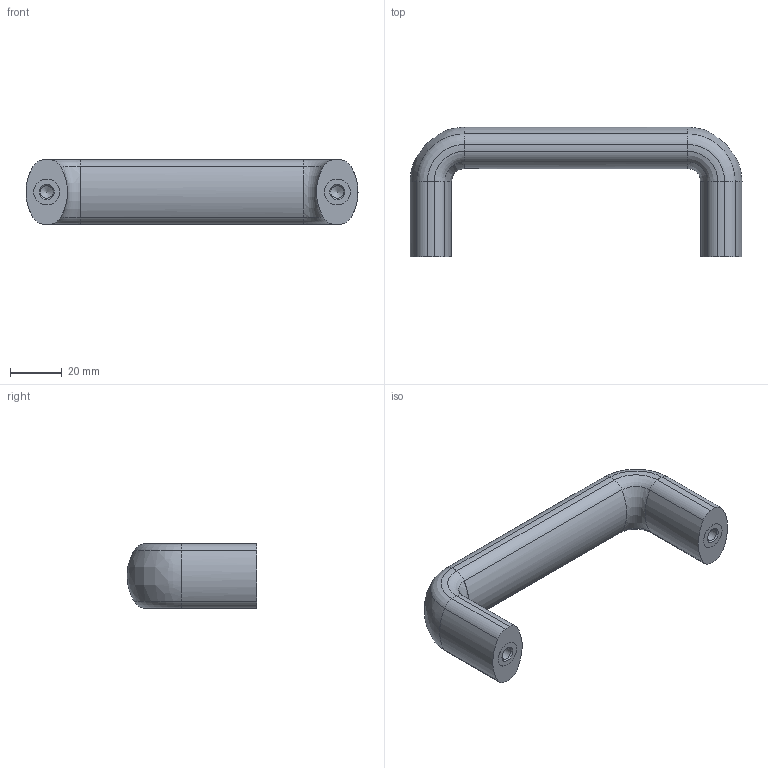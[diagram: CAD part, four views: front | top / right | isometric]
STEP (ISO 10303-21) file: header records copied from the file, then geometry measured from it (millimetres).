
FILE_DESCRIPTION( ( 'STEP AP203' ), '1' );
FILE_NAME( 'C:/Temp/Ganter_Step_05_03_2020/data/1_2/gn_564/Cabinet U-handle GN 564-25-112.stp', '2020-03-05T10:08:38', ( 'License CC BY-ND 4.0' ), ( 'CADENAS' ), ' ', 'PARTsolutions', ' ' );
FILE_SCHEMA( ( 'CONFIG_CONTROL_DESIGN' ) );
Length unit declared in the file: millimetre
Products named in the file (1): _Cabinet U-handle GN 564-25-112
Bounding box: 128 x 50 x 24.99 mm (x, y, z)
Volume: 59217 mm3; surface area: 13269.6 mm2
Topology: 1 solids, 1 shells, 59 faces, 141 edges, 86 vertices
Faces by surface type: cylinder 28, torus 14, plane 11, cone 4, bspline 2
Full cylindrical faces by diameter (mm): 4.917 x2, 10 x2
Entity records: 1784 total; most frequent: CARTESIAN_POINT 364, DIRECTION 328, ORIENTED_EDGE 262, AXIS2_PLACEMENT_3D 152, EDGE_CURVE 131, CIRCLE 94, VERTEX_POINT 86, EDGE_LOOP 69
